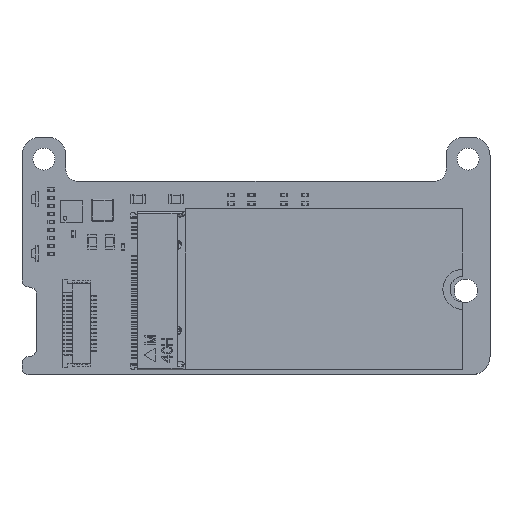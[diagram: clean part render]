
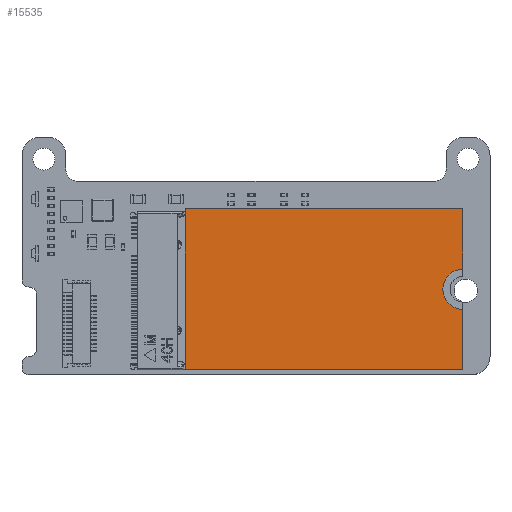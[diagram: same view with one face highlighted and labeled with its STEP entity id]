
A CAD part, top view. The second image highlights one B-rep face of the part: STEP entity #15535.
In plain terms, the highlighted planar face has unit normal (0, 0, 1).
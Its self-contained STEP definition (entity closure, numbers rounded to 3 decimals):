
#15340 = VERTEX_POINT('',#15341);
#15341 = CARTESIAN_POINT('',(4.,11.,2.15));
#15347 = EDGE_CURVE('',#15340,#15348,#15350,.T.);
#15348 = VERTEX_POINT('',#15349);
#15349 = CARTESIAN_POINT('',(4.,-11.,2.15));
#15350 = LINE('',#15351,#15352);
#15351 = CARTESIAN_POINT('',(4.,11.,2.15));
#15352 = VECTOR('',#15353,1.);
#15353 = DIRECTION('',(0.,-1.,0.));
#15378 = EDGE_CURVE('',#15348,#15379,#15381,.T.);
#15379 = VERTEX_POINT('',#15380);
#15380 = CARTESIAN_POINT('',(42.,-11.,2.15));
#15381 = LINE('',#15382,#15383);
#15382 = CARTESIAN_POINT('',(4.,-11.,2.15));
#15383 = VECTOR('',#15384,1.);
#15384 = DIRECTION('',(1.,0.,0.));
#15409 = EDGE_CURVE('',#15379,#15410,#15412,.T.);
#15410 = VERTEX_POINT('',#15411);
#15411 = CARTESIAN_POINT('',(42.,-2.75,2.15));
#15412 = LINE('',#15413,#15414);
#15413 = CARTESIAN_POINT('',(42.,-11.,2.15));
#15414 = VECTOR('',#15415,1.);
#15415 = DIRECTION('',(0.,1.,0.));
#15449 = EDGE_CURVE('',#15450,#15410,#15452,.T.);
#15450 = VERTEX_POINT('',#15451);
#15451 = CARTESIAN_POINT('',(42.,2.75,2.15));
#15452 = CIRCLE('',#15453,2.75);
#15453 = AXIS2_PLACEMENT_3D('',#15454,#15455,#15456);
#15454 = CARTESIAN_POINT('',(42.,0.,2.15));
#15455 = DIRECTION('',(0.,0.,1.));
#15456 = DIRECTION('',(1.,0.,0.));
#15475 = VERTEX_POINT('',#15476);
#15476 = CARTESIAN_POINT('',(42.,11.,2.15));
#15482 = EDGE_CURVE('',#15475,#15450,#15483,.T.);
#15483 = LINE('',#15484,#15485);
#15484 = CARTESIAN_POINT('',(42.,11.,2.15));
#15485 = VECTOR('',#15486,1.);
#15486 = DIRECTION('',(0.,-1.,0.));
#15504 = EDGE_CURVE('',#15340,#15475,#15505,.T.);
#15505 = LINE('',#15506,#15507);
#15506 = CARTESIAN_POINT('',(4.,11.,2.15));
#15507 = VECTOR('',#15508,1.);
#15508 = DIRECTION('',(1.,0.,0.));
#15535 = ADVANCED_FACE('',(#15536),#15544,.T.);
#15536 = FACE_BOUND('',#15537,.T.);
#15537 = EDGE_LOOP('',(#15538,#15539,#15540,#15541,#15542,#15543));
#15538 = ORIENTED_EDGE('',*,*,#15347,.T.);
#15539 = ORIENTED_EDGE('',*,*,#15378,.T.);
#15540 = ORIENTED_EDGE('',*,*,#15409,.T.);
#15541 = ORIENTED_EDGE('',*,*,#15449,.F.);
#15542 = ORIENTED_EDGE('',*,*,#15482,.F.);
#15543 = ORIENTED_EDGE('',*,*,#15504,.F.);
#15544 = PLANE('',#15545);
#15545 = AXIS2_PLACEMENT_3D('',#15546,#15547,#15548);
#15546 = CARTESIAN_POINT('',(23.319,0.,2.15));
#15547 = DIRECTION('',(0.,0.,1.));
#15548 = DIRECTION('',(1.,0.,0.));
